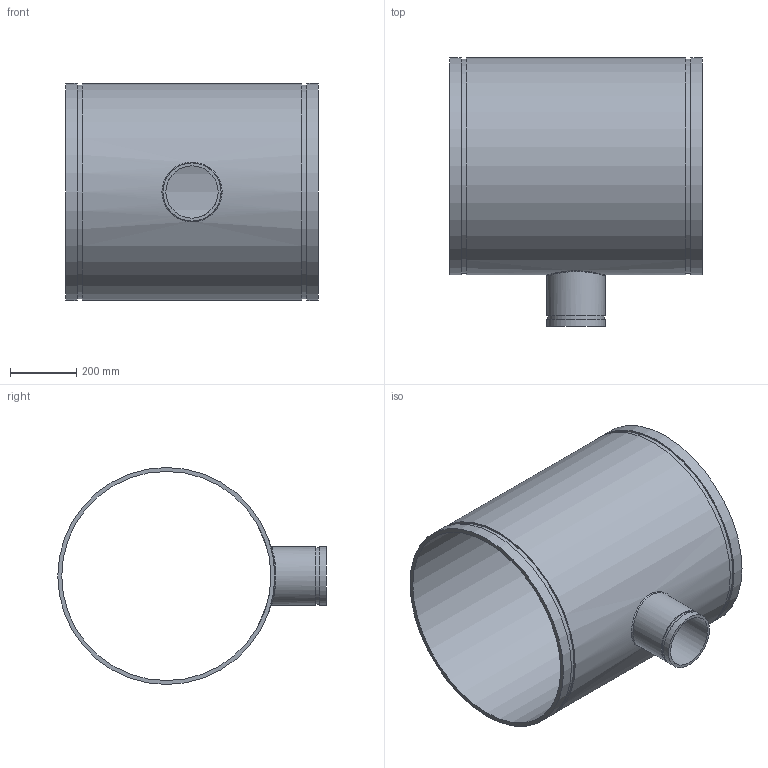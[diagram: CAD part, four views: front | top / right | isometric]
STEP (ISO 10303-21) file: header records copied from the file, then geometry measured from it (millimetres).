
FILE_DESCRIPTION(/* description */ ('VIC REDUCING TEE No 25-C','CAx-IF Rec.Pracs.---Representation and Presentation of Product Manufacturing Information (PMI)---4.0---2014-10-13'),/* implementation_level */ '2;1');
FILE_NAME(/* name */ 'C:\Users\Vjadhav\AppData\Roaming\Autodesk\ApplicationPlugins\Back Up\Victaulic_AWWA_Tee Reducing_No 25-C (DRG)\Victaulic_AWWA_Tee Reducing_No 25-C (DRG)_24.0x06.0 (600x150).stp',/* time_stamp */ '2020-08-18T18:18:50+06:00',/* author */ ('CORINNE GRAY'),/* organization */ ('Victaulic'),/* preprocessor_version */ 'ST-DEVELOPER v17.2',/* originating_system */ 'Autodesk Inventor 2019',/* authorisation */ '');
FILE_SCHEMA (('AP242_MANAGED_MODEL_BASED_3D_ENGINEERING_MIM_LF { 1 0 10303 442 1 1 4 }'));
Length unit declared in the file: inch
Products named in the file (1): 25C-24.0x06.0
Bounding box: 762 x 810.26 x 655.32 mm (x, y, z)
Volume: 18536514.6 mm3; surface area: 3305451.6 mm2
Topology: 1 solids, 1 shells, 20 faces, 44 edges, 33 vertices
Faces by surface type: cylinder 10, plane 9, bspline 1
Full cylindrical faces by diameter (mm): 157.988 x1, 169.062 x1, 175.26 x2, 631.444 x1, 645.312 x2, 655.32 x3
Entity records: 982 total; most frequent: CARTESIAN_POINT 358, DIRECTION 135, ORIENTED_EDGE 90, AXIS2_PLACEMENT_3D 62, EDGE_CURVE 45, VERTEX_POINT 34, EDGE_LOOP 31, CIRCLE 29
